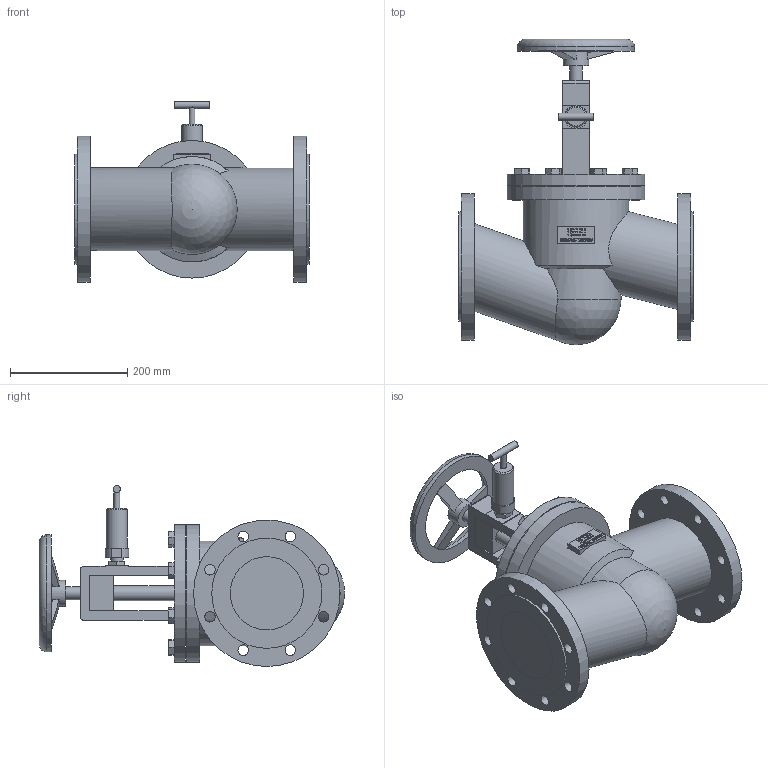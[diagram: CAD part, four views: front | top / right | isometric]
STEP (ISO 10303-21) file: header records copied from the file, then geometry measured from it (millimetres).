
FILE_DESCRIPTION(/* description */ (''),/* implementation_level */ '2;1');
FILE_NAME(/* name */ '100-247HP-DN125-PN16.stp',/* time_stamp */ '2024-07-08T21:52:49+02:00',/* author */ ('roger.thijssen'),/* organization */ (''),/* preprocessor_version */ 'ST-DEVELOPER v20',/* originating_system */ 'Autodesk Inventor 2024',/* authorisation */ '');
FILE_SCHEMA (('AUTOMOTIVE_DESIGN { 1 0 10303 214 3 1 1 }'));
Length unit declared in the file: millimetre
Products named in the file (1): 100-247HP-DN125-PN16
Bounding box: 400 x 521.42 x 309 mm (x, y, z)
Volume: 13246085.2 mm3; surface area: 684521.8 mm2
Topology: 1 solids, 1 shells, 393 faces, 1039 edges, 692 vertices
Faces by surface type: plane 266, bspline 67, cylinder 55, cone 3, torus 1, sphere 1
Full cylindrical faces by diameter (mm): 10 x1, 12 x1, 18 x16, 21 x1, 22 x1, 25 x1, 36 x1, 44 x1, 125 x2, 141 x2, 150 x1, 170 x1, 180 x1, 188 x2, 200 x1, 235 x2, 250 x2
Entity records: 13426 total; most frequent: CARTESIAN_POINT 3471, ORIENTED_EDGE 2076, DIRECTION 1665, EDGE_CURVE 1038, LINE 747, VECTOR 747, VERTEX_POINT 692, EDGE_LOOP 480
